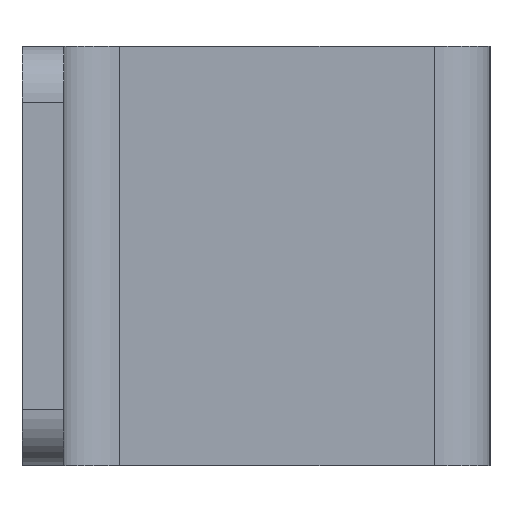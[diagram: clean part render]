
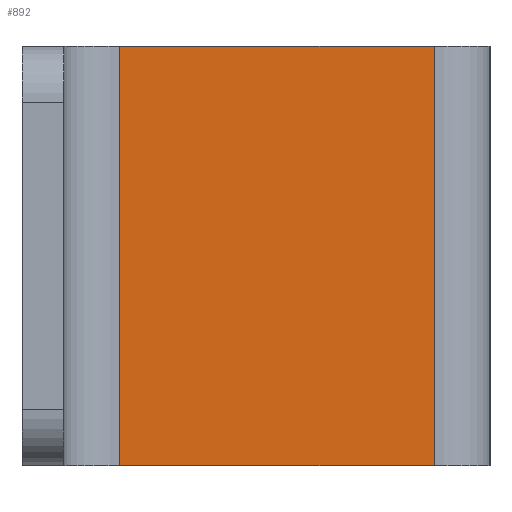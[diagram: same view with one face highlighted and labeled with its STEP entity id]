
A CAD part, left-side view. The second image highlights one B-rep face of the part: STEP entity #892.
In plain terms, the highlighted planar face has unit normal (-1, 0, 0).
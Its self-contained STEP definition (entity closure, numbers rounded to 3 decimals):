
#274=ORIENTED_EDGE('',*,*,#412,.T.);
#275=ORIENTED_EDGE('',*,*,#472,.T.);
#276=ORIENTED_EDGE('',*,*,#370,.F.);
#277=ORIENTED_EDGE('',*,*,#473,.T.);
#370=EDGE_CURVE('',#500,#501,#588,.T.);
#412=EDGE_CURVE('',#543,#542,#605,.T.);
#472=EDGE_CURVE('',#542,#501,#642,.T.);
#473=EDGE_CURVE('',#500,#543,#643,.F.);
#500=VERTEX_POINT('',#1176);
#501=VERTEX_POINT('',#1177);
#542=VERTEX_POINT('',#1476);
#543=VERTEX_POINT('',#1478);
#588=LINE('',#1175,#658);
#605=LINE('',#1477,#675);
#642=LINE('',#2361,#712);
#643=LINE('',#2362,#713);
#658=VECTOR('',#989,1000.);
#675=VECTOR('',#1026,1000.);
#712=VECTOR('',#1091,1000.);
#713=VECTOR('',#1092,1000.);
#762=EDGE_LOOP('',(#274,#275,#276,#277));
#824=FACE_BOUND('',#762,.T.);
#860=PLANE('',#951);
#892=ADVANCED_FACE('',(#824),#860,.T.);
#951=AXIS2_PLACEMENT_3D('',#2360,#1089,#1090);
#989=DIRECTION('',(0.,1.,0.));
#1026=DIRECTION('',(0.,1.,0.));
#1089=DIRECTION('',(-1.,0.,0.));
#1090=DIRECTION('',(0.,-1.,0.));
#1091=DIRECTION('',(0.,0.,-1.));
#1092=DIRECTION('',(0.,0.,-1.));
#1175=CARTESIAN_POINT('',(-7.,-0.5,0.));
#1176=CARTESIAN_POINT('',(-7.,-13.75,0.));
#1177=CARTESIAN_POINT('',(-7.,-2.5,0.));
#1476=CARTESIAN_POINT('',(-7.,-2.5,15.));
#1477=CARTESIAN_POINT('',(-7.,-0.5,15.));
#1478=CARTESIAN_POINT('',(-7.,-13.75,15.));
#2360=CARTESIAN_POINT('',(-7.,-0.5,15.));
#2361=CARTESIAN_POINT('',(-7.,-2.5,0.));
#2362=CARTESIAN_POINT('',(-7.,-13.75,15.));
